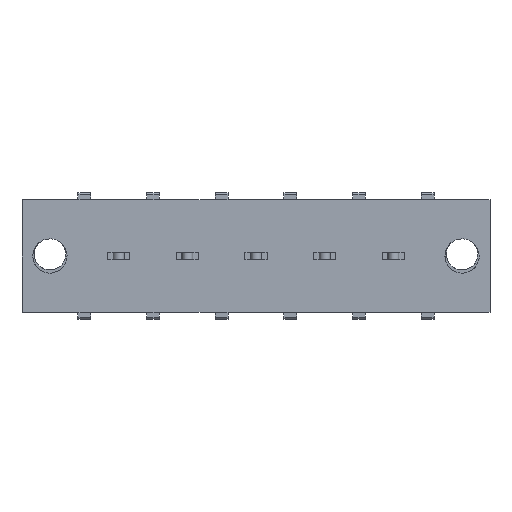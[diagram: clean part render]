
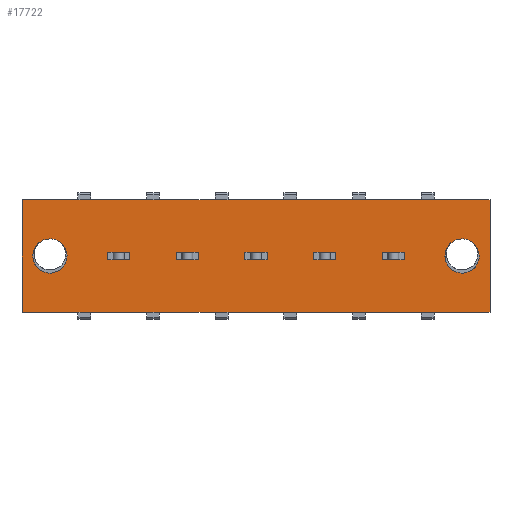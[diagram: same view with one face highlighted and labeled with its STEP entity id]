
A CAD part, front view. The second image highlights one B-rep face of the part: STEP entity #17722.
In plain terms, the highlighted planar face has unit normal (0, -1, 0).
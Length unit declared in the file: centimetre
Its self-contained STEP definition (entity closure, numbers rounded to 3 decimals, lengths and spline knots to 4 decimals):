
#676=CIRCLE('',#29753,0.19);
#740=CIRCLE('',#29946,0.19);
#1377=VERTEX_POINT('',#24572);
#1378=VERTEX_POINT('',#24574);
#1379=VERTEX_POINT('',#24578);
#1555=VERTEX_POINT('',#25152);
#1556=VERTEX_POINT('',#25153);
#1565=VERTEX_POINT('',#25179);
#1574=VERTEX_POINT('',#25215);
#1617=VERTEX_POINT('',#25340);
#1627=VERTEX_POINT('',#25363);
#1628=VERTEX_POINT('',#25365);
#1629=VERTEX_POINT('',#25366);
#1630=VERTEX_POINT('',#25368);
#1631=VERTEX_POINT('',#25370);
#1632=VERTEX_POINT('',#25373);
#1633=VERTEX_POINT('',#25374);
#1634=VERTEX_POINT('',#25376);
#1635=VERTEX_POINT('',#25378);
#1636=VERTEX_POINT('',#25381);
#1637=VERTEX_POINT('',#25382);
#1638=VERTEX_POINT('',#25384);
#1639=VERTEX_POINT('',#25386);
#1640=VERTEX_POINT('',#25389);
#1641=VERTEX_POINT('',#25390);
#1642=VERTEX_POINT('',#25392);
#1643=VERTEX_POINT('',#25394);
#1644=VERTEX_POINT('',#25397);
#3273=VECTOR('',#19848,1.);
#3455=VECTOR('',#20243,1.);
#3466=VECTOR('',#20263,1.);
#3480=VECTOR('',#20296,1.);
#3482=VECTOR('',#20299,1.);
#3531=VECTOR('',#20394,1.);
#3543=VECTOR('',#20409,1.);
#3544=VECTOR('',#20410,1.);
#3545=VECTOR('',#20411,1.);
#3546=VECTOR('',#20412,1.);
#3547=VECTOR('',#20413,1.);
#3548=VECTOR('',#20414,1.);
#3549=VECTOR('',#20415,1.);
#3550=VECTOR('',#20416,1.);
#3551=VECTOR('',#20417,1.);
#3552=VECTOR('',#20418,1.);
#3553=VECTOR('',#20419,1.);
#3554=VECTOR('',#20420,1.);
#3555=VECTOR('',#20421,1.);
#3556=VECTOR('',#20422,1.);
#3557=VECTOR('',#20423,1.);
#3558=VECTOR('',#20424,1.);
#3559=VECTOR('',#20425,1.);
#3560=VECTOR('',#20426,1.);
#5325=LINE('',#24573,#3273);
#5507=LINE('',#25151,#3455);
#5518=LINE('',#25178,#3466);
#5532=LINE('',#25214,#3480);
#5534=LINE('',#25218,#3482);
#5583=LINE('',#25339,#3531);
#5595=LINE('',#25364,#3543);
#5596=LINE('',#25367,#3544);
#5597=LINE('',#25369,#3545);
#5598=LINE('',#25371,#3546);
#5599=LINE('',#25372,#3547);
#5600=LINE('',#25375,#3548);
#5601=LINE('',#25377,#3549);
#5602=LINE('',#25379,#3550);
#5603=LINE('',#25380,#3551);
#5604=LINE('',#25383,#3552);
#5605=LINE('',#25385,#3553);
#5606=LINE('',#25387,#3554);
#5607=LINE('',#25388,#3555);
#5608=LINE('',#25391,#3556);
#5609=LINE('',#25393,#3557);
#5610=LINE('',#25395,#3558);
#5611=LINE('',#25396,#3559);
#5612=LINE('',#25398,#3560);
#7501=EDGE_CURVE('',#1378,#1377,#5325,.T.);
#7503=EDGE_CURVE('',#1379,#1379,#676,.T.);
#7765=EDGE_CURVE('',#1555,#1556,#5507,.T.);
#7780=EDGE_CURVE('',#1565,#1555,#5518,.T.);
#7798=EDGE_CURVE('',#1574,#1565,#5532,.T.);
#7800=EDGE_CURVE('',#1556,#1574,#5534,.T.);
#7860=EDGE_CURVE('',#1617,#1377,#5583,.T.);
#7872=EDGE_CURVE('',#1627,#1627,#740,.T.);
#7873=EDGE_CURVE('',#1628,#1629,#5595,.T.);
#7874=EDGE_CURVE('',#1629,#1630,#5596,.T.);
#7875=EDGE_CURVE('',#1630,#1631,#5597,.T.);
#7876=EDGE_CURVE('',#1631,#1628,#5598,.T.);
#7877=EDGE_CURVE('',#1632,#1633,#5599,.T.);
#7878=EDGE_CURVE('',#1633,#1634,#5600,.T.);
#7879=EDGE_CURVE('',#1634,#1635,#5601,.T.);
#7880=EDGE_CURVE('',#1635,#1632,#5602,.T.);
#7881=EDGE_CURVE('',#1636,#1637,#5603,.T.);
#7882=EDGE_CURVE('',#1637,#1638,#5604,.T.);
#7883=EDGE_CURVE('',#1638,#1639,#5605,.T.);
#7884=EDGE_CURVE('',#1639,#1636,#5606,.T.);
#7885=EDGE_CURVE('',#1640,#1641,#5607,.T.);
#7886=EDGE_CURVE('',#1641,#1642,#5608,.T.);
#7887=EDGE_CURVE('',#1642,#1643,#5609,.T.);
#7888=EDGE_CURVE('',#1643,#1640,#5610,.T.);
#7889=EDGE_CURVE('',#1644,#1378,#5611,.T.);
#7890=EDGE_CURVE('',#1644,#1617,#5612,.T.);
#11537=ORIENTED_EDGE('',*,*,#7503,.T.);
#11538=ORIENTED_EDGE('',*,*,#7872,.T.);
#11539=ORIENTED_EDGE('',*,*,#7780,.F.);
#11540=ORIENTED_EDGE('',*,*,#7798,.F.);
#11541=ORIENTED_EDGE('',*,*,#7800,.F.);
#11542=ORIENTED_EDGE('',*,*,#7765,.F.);
#11543=ORIENTED_EDGE('',*,*,#7873,.T.);
#11544=ORIENTED_EDGE('',*,*,#7874,.T.);
#11545=ORIENTED_EDGE('',*,*,#7875,.T.);
#11546=ORIENTED_EDGE('',*,*,#7876,.T.);
#11547=ORIENTED_EDGE('',*,*,#7877,.T.);
#11548=ORIENTED_EDGE('',*,*,#7878,.T.);
#11549=ORIENTED_EDGE('',*,*,#7879,.T.);
#11550=ORIENTED_EDGE('',*,*,#7880,.T.);
#11551=ORIENTED_EDGE('',*,*,#7881,.T.);
#11552=ORIENTED_EDGE('',*,*,#7882,.T.);
#11553=ORIENTED_EDGE('',*,*,#7883,.T.);
#11554=ORIENTED_EDGE('',*,*,#7884,.T.);
#11555=ORIENTED_EDGE('',*,*,#7885,.T.);
#11556=ORIENTED_EDGE('',*,*,#7886,.T.);
#11557=ORIENTED_EDGE('',*,*,#7887,.T.);
#11558=ORIENTED_EDGE('',*,*,#7888,.T.);
#11559=ORIENTED_EDGE('',*,*,#7889,.T.);
#11560=ORIENTED_EDGE('',*,*,#7501,.T.);
#11561=ORIENTED_EDGE('',*,*,#7860,.F.);
#11562=ORIENTED_EDGE('',*,*,#7890,.F.);
#15535=EDGE_LOOP('',(#11537));
#15536=EDGE_LOOP('',(#11538));
#15537=EDGE_LOOP('',(#11539,#11540,#11541,#11542));
#15538=EDGE_LOOP('',(#11543,#11544,#11545,#11546));
#15539=EDGE_LOOP('',(#11547,#11548,#11549,#11550));
#15540=EDGE_LOOP('',(#11551,#11552,#11553,#11554));
#15541=EDGE_LOOP('',(#11555,#11556,#11557,#11558));
#15542=EDGE_LOOP('',(#11559,#11560,#11561,#11562));
#16645=FACE_BOUND('',#15535,.T.);
#16646=FACE_BOUND('',#15536,.T.);
#16647=FACE_BOUND('',#15537,.T.);
#16648=FACE_BOUND('',#15538,.T.);
#16649=FACE_BOUND('',#15539,.T.);
#16650=FACE_BOUND('',#15540,.T.);
#16651=FACE_BOUND('',#15541,.T.);
#16652=FACE_BOUND('',#15542,.T.);
#17722=ADVANCED_FACE('',(#16645,#16646,#16647,#16648,#16649,#16650,#16651,
#16652),#18652,.T.);
#18652=PLANE('',#29945);
#19848=DIRECTION('',(0.,0.,1.));
#19852=DIRECTION('',(0.,1.,0.));
#19853=DIRECTION('',(0.19,0.,0.));
#20243=DIRECTION('',(0.,0.,1.));
#20263=DIRECTION('',(1.,0.,0.));
#20296=DIRECTION('',(0.,0.,-1.));
#20299=DIRECTION('',(-1.,0.,0.));
#20394=DIRECTION('',(1.,0.,0.));
#20406=DIRECTION('',(0.,-1.,0.));
#20407=DIRECTION('',(0.,1.,0.));
#20408=DIRECTION('',(0.19,0.,0.));
#20409=DIRECTION('',(-1.,0.,0.));
#20410=DIRECTION('',(0.,0.,1.));
#20411=DIRECTION('',(1.,0.,0.));
#20412=DIRECTION('',(0.,0.,-1.));
#20413=DIRECTION('',(-1.,0.,0.));
#20414=DIRECTION('',(0.,0.,1.));
#20415=DIRECTION('',(1.,0.,0.));
#20416=DIRECTION('',(0.,0.,-1.));
#20417=DIRECTION('',(-1.,0.,0.));
#20418=DIRECTION('',(0.,0.,1.));
#20419=DIRECTION('',(1.,0.,0.));
#20420=DIRECTION('',(0.,0.,-1.));
#20421=DIRECTION('',(-1.,0.,0.));
#20422=DIRECTION('',(0.,0.,1.));
#20423=DIRECTION('',(1.,0.,0.));
#20424=DIRECTION('',(0.,0.,-1.));
#20425=DIRECTION('',(1.,0.,0.));
#20426=DIRECTION('',(0.,0.,1.));
#24572=CARTESIAN_POINT('',(3.81,0.,0.625));
#24573=CARTESIAN_POINT('',(3.81,0.,-0.625));
#24574=CARTESIAN_POINT('',(3.81,0.,-0.625));
#24577=CARTESIAN_POINT('',(3.5,0.,0.));
#24578=CARTESIAN_POINT('',(3.31,0.,0.));
#25151=CARTESIAN_POINT('',(-0.185,0.,0.));
#25152=CARTESIAN_POINT('',(-0.185,0.,-0.04));
#25153=CARTESIAN_POINT('',(-0.185,0.,0.04));
#25178=CARTESIAN_POINT('',(-0.465,0.,-0.04));
#25179=CARTESIAN_POINT('',(-0.435,0.,-0.04));
#25214=CARTESIAN_POINT('',(-0.435,0.,0.));
#25215=CARTESIAN_POINT('',(-0.435,0.,0.04));
#25218=CARTESIAN_POINT('',(-0.465,0.,0.04));
#25339=CARTESIAN_POINT('',(-1.382,0.,0.625));
#25340=CARTESIAN_POINT('',(-1.382,0.,0.625));
#25361=CARTESIAN_POINT('',(0.,0.,0.));
#25362=CARTESIAN_POINT('',(-1.072,0.,0.));
#25363=CARTESIAN_POINT('',(-1.262,0.,0.));
#25364=CARTESIAN_POINT('',(1.369,0.,-0.04));
#25365=CARTESIAN_POINT('',(2.863,0.,-0.04));
#25366=CARTESIAN_POINT('',(2.613,0.,-0.04));
#25367=CARTESIAN_POINT('',(2.613,0.,0.));
#25368=CARTESIAN_POINT('',(2.613,0.,0.04));
#25369=CARTESIAN_POINT('',(1.369,0.,0.04));
#25370=CARTESIAN_POINT('',(2.863,0.,0.04));
#25371=CARTESIAN_POINT('',(2.863,0.,0.));
#25372=CARTESIAN_POINT('',(0.988,0.,-0.04));
#25373=CARTESIAN_POINT('',(2.101,0.,-0.04));
#25374=CARTESIAN_POINT('',(1.851,0.,-0.04));
#25375=CARTESIAN_POINT('',(1.851,0.,0.));
#25376=CARTESIAN_POINT('',(1.851,0.,0.04));
#25377=CARTESIAN_POINT('',(0.988,0.,0.04));
#25378=CARTESIAN_POINT('',(2.101,0.,0.04));
#25379=CARTESIAN_POINT('',(2.101,0.,0.));
#25380=CARTESIAN_POINT('',(0.607,0.,-0.04));
#25381=CARTESIAN_POINT('',(1.339,0.,-0.04));
#25382=CARTESIAN_POINT('',(1.089,0.,-0.04));
#25383=CARTESIAN_POINT('',(1.089,0.,0.));
#25384=CARTESIAN_POINT('',(1.089,0.,0.04));
#25385=CARTESIAN_POINT('',(0.607,0.,0.04));
#25386=CARTESIAN_POINT('',(1.339,0.,0.04));
#25387=CARTESIAN_POINT('',(1.339,0.,0.));
#25388=CARTESIAN_POINT('',(0.226,0.,-0.04));
#25389=CARTESIAN_POINT('',(0.577,0.,-0.04));
#25390=CARTESIAN_POINT('',(0.327,0.,-0.04));
#25391=CARTESIAN_POINT('',(0.327,0.,0.));
#25392=CARTESIAN_POINT('',(0.327,0.,0.04));
#25393=CARTESIAN_POINT('',(0.226,0.,0.04));
#25394=CARTESIAN_POINT('',(0.577,0.,0.04));
#25395=CARTESIAN_POINT('',(0.577,0.,0.));
#25396=CARTESIAN_POINT('',(-1.382,0.,-0.625));
#25397=CARTESIAN_POINT('',(-1.382,0.,-0.625));
#25398=CARTESIAN_POINT('',(-1.382,0.,-0.625));
#29753=AXIS2_PLACEMENT_3D('',#24577,#19852,#19853);
#29945=AXIS2_PLACEMENT_3D('',#25361,#20406,$);
#29946=AXIS2_PLACEMENT_3D('',#25362,#20407,#20408);
